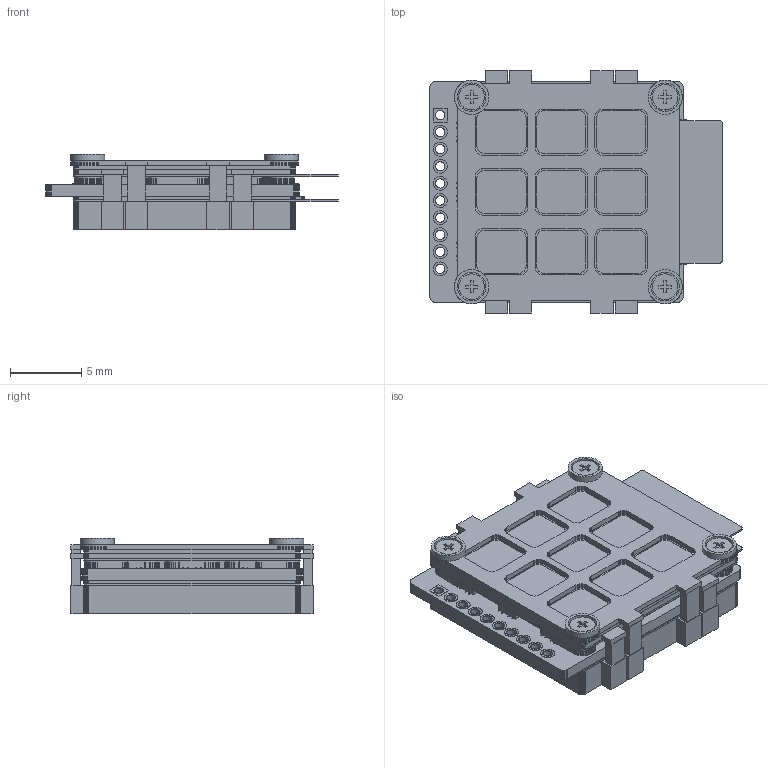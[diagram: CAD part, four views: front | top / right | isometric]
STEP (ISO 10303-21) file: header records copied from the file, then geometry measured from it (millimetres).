
FILE_DESCRIPTION(('Open CASCADE Model'),'2;1');
FILE_NAME('Open CASCADE Shape Model','2026-11-23T03:42:17',('Author'),( 'Open CASCADE'),'Open CASCADE STEP processor 7.9','Open CASCADE 7.9' ,'Unknown');
FILE_SCHEMA(('AUTOMOTIVE_DESIGN { 1 0 10303 214 1 1 1 1 }'));
Length unit declared in the file: millimetre
Products named in the file (49): R2K_display_4_strands; L01_tapped_backing; L04_electrode_board; L04_B10; L04_B11; L04_B12; L04_B13; L04_B20; L04_B21; L04_B22; L04_B23; L04_B30; L04_B31; L04_B32; L04_B33; L05_straight_NiCr_1; L05_straight_NiCr_2; L05_straight_NiCr_3; L05_straight_NiCr_4; L05_straight_NiCr_5; L05_straight_NiCr_6; L05_straight_NiCr_7; L05_straight_NiCr_8; L05_straight_NiCr_9; L05_straight_NiCr_10; L05_straight_NiCr_11; L05_straight_NiCr_12; L04_plated_land_T0; L04_plated_land_T1; L04_plated_land_T2; L04_plated_land_T3; L04_plated_land_T4; L04_plated_land_T5; L04_plated_land_T6; L04_plated_land_T7; L04_plated_land_T8; L04_plated_land_T9; L02-floor-C110; L03-windowed-floor-gasket; L06-connected-contact-gasket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
Assembly tree (48 placements, depth 2):
  R2K_display_4_strands
    L01_tapped_backing
    L04_electrode_board
    L04_B10
    L04_B11
    L04_B12
    L04_B13
    L04_B20
    L04_B21
    L04_B22
    L04_B23
    L04_B30
    L04_B31
    L04_B32
    L04_B33
    L05_straight_NiCr_1
    L05_straight_NiCr_2
    L05_straight_NiCr_3
    L05_straight_NiCr_4
    L05_straight_NiCr_5
    L05_straight_NiCr_6
    L05_straight_NiCr_7
    L05_straight_NiCr_8
    L05_straight_NiCr_9
    L05_straight_NiCr_10
    L05_straight_NiCr_11
    L05_straight_NiCr_12
    L04_plated_land_T0
    L04_plated_land_T1
    L04_plated_land_T2
    L04_plated_land_T3
    L04_plated_land_T4
    L04_plated_land_T5
    L04_plated_land_T6
    L04_plated_land_T7
    L04_plated_land_T8
    L04_plated_land_T9
    L02-floor-C110
    L03-windowed-floor-gasket
    L06-connected-contact-gasket
    L07-upper-dielectric-PI
    L08-upper-C110
    L09-aperture-cap-FR4
    L10-diaphragm
    L11_face_clamp_grid
    L12_M1p2x4_1
    L12_M1p2x4_2
    L12_M1p2x4_3
    L12_M1p2x4_4
Bounding box: 20.55 x 17 x 5.27 mm (x, y, z)
Volume: 901.3 mm3; surface area: 4965.2 mm2
Topology: 48 solids, 48 shells, 4314 faces, 12205 edges, 8048 vertices
Faces by surface type: plane 4112, cylinder 202
Full cylindrical faces by diameter (mm): 0.032 x60, 0.425 x9, 0.6 x9, 0.65 x30, 0.69 x20, 0.98 x18, 1.2 x8, 1.4 x36, 1.8 x4, 2 x4, 2.4 x4
Entity records: 297897 total; most frequent: CARTESIAN_POINT 50512, DIRECTION 45435, LINE 35369, VECTOR 35369, ORIENTED_EDGE 24410, PCURVE 24410, DEFINITIONAL_REPRESENTATION 24410, EDGE_CURVE 12205
